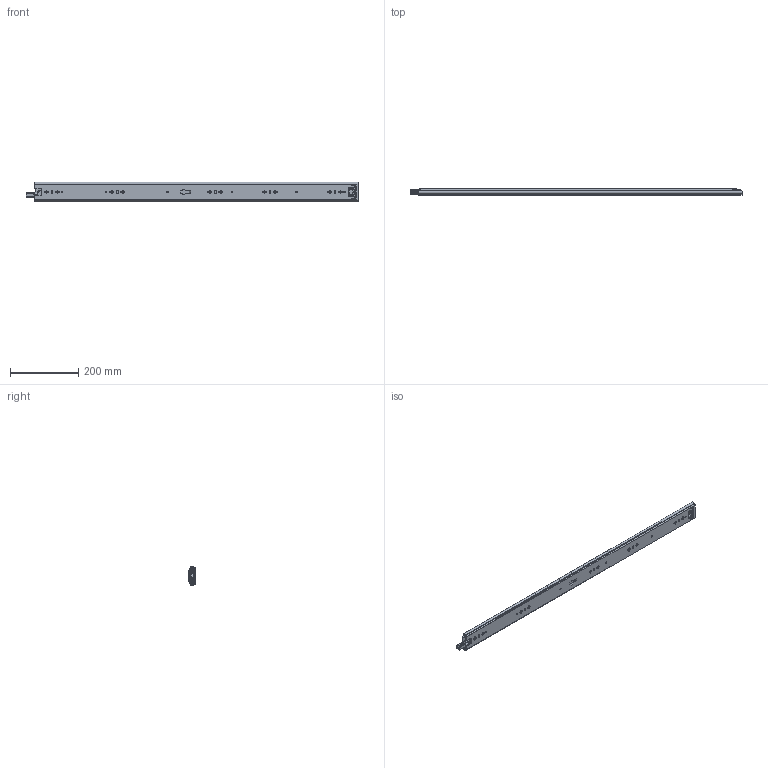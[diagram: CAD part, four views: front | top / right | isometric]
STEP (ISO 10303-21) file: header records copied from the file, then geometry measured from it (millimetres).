
FILE_DESCRIPTION((''),'2;1');
FILE_NAME('KP-57-01ZUZHUANGTU-38_ASM','2023-04-01T',('jishu015'),(''),'PRO/ENGINEER BY PARAMETRIC TECHNOLOGY CORPORATION, 2010280','PRO/ENGINEER BY PARAMETRIC TECHNOLOGY CORPORATION, 2010280','');
FILE_SCHEMA(('CONFIG_CONTROL_DESIGN'));
Products named in the file (22): KP-57-01WEIKE-18_______; 1057WEIJIAO_______; WAIKE______ASM; KP-57-01ZHONGGUI-18_______; ZHONGGUIPEIJIAN-11_____; ZHONGGUISUOKOU-11_____; KP-57-01ZHONGGUI-18________ASM; 1057XIAOZHUJIA_______; 1057-5-6GANZHU_______; 1057XIAOZHUJIA-14GE________ASM; KP-57-01NEIGUI-18_______; PJ-57-08_____; DIAOPIAN-11_____; 50XINSUOKOU-1_____; TANHUANG_____; 1053-3SBANJI122___; JIAO11___; KP-57-01NEIGUI-18________ASM; 1053ZHUTIAO-175___________; 53-5-6GANZHU___________; 1053ZHUTIAO-175MM______ASM; KP-57-01ZUZHUANGTU-38_ASM
Assembly tree (105 placements, depth 3):
  KP-57-01ZUZHUANGTU-38_ASM
    WAIKE______ASM
      KP-57-01WEIKE-18_______
      1057WEIJIAO_______
    KP-57-01ZHONGGUI-18________ASM
      KP-57-01ZHONGGUI-18_______
      ZHONGGUIPEIJIAN-11_____
      ZHONGGUISUOKOU-11_____
    1057XIAOZHUJIA-14GE________ASM
      1057XIAOZHUJIA_______
      1057-5-6GANZHU_______  x68
    KP-57-01NEIGUI-18________ASM
      KP-57-01NEIGUI-18_______
      PJ-57-08_____
      DIAOPIAN-11_____
      50XINSUOKOU-1_____
      TANHUANG_____
      1053-3SBANJI122___
      JIAO11___
    1053ZHUTIAO-175MM______ASM  x2
      1053ZHUTIAO-175___________
      53-5-6GANZHU___________
Bounding box: 975.42 x 19 x 57.67 mm (x, y, z)
Volume: 417014 mm3; surface area: 455387.4 mm2
Topology: 120 solids, 120 shells, 2904 faces, 8396 edges, 5231 vertices
Faces by surface type: cylinder 1270, plane 1157, sphere 215, bspline 130, cone 84, torus 25, extrusion 23
Entity records: 93232 total; most frequent: CARTESIAN_POINT 22868, ORIENTED_EDGE 14896, DIRECTION 14511, EDGE_CURVE 7448, AXIS2_PLACEMENT_3D 5021, VERTEX_POINT 4811, VECTOR 4469, LINE 4446
